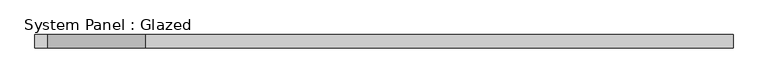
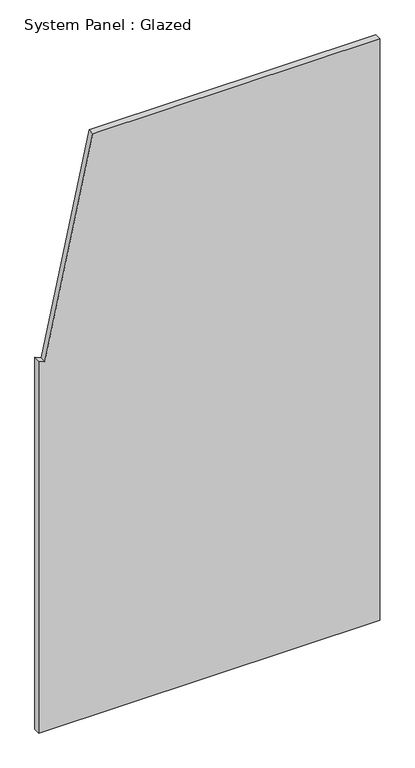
"""IFC4 building model written with IfcOpenShell, lengths in millimetres: plate geometry, System Panel : Glazed."""

from ifc_helpers import new_model, si_unit, frame, origin, place, context, project, spatial, polyline, outline, extrude, source, transform, mapped, element, save


def system_panel_glazed_9da83126(model_context):
    return source(origin(), model_context, "Body", "SweptSolid", [
        extrude(outline(polyline([(0.0, -651.6601177), (0.0, 651.6601177), (2350.0, 651.6601177), (2350.0, -444.5416156), (1493.1763221, -627.7655453), (1503.6319805, -651.6601177), (0.0, -651.6601177)])), frame((0.0, -49.5, 0.0), z_axis=(0.0, 1.0, 0.0), x_axis=(0.0, 0.0, 1.0)), (0.0, 0.0, 1.0), 25.0),
    ])


if __name__ == "__main__":
    model = new_model("IFC4")
    model_context = context("Model", 3, world=origin())
    ifc_project = project(units=[si_unit("LENGTHUNIT", "METRE", prefix="MILLI")], contexts=[model_context])
    site = spatial("IfcSite", under=ifc_project)
    building = spatial("IfcBuilding", under=site)
    placement = place(None, origin())
    system_panel_glazed_shape = system_panel_glazed_9da83126(model_context)
    element("IfcPlate", 1, ObjectType="System Panel : Glazed", at=placement, inside=building, context=model_context, shape_type="MappedRepresentation", body=[
        mapped(system_panel_glazed_shape, transform((0.0, 0.0, 0.0), x_axis=(1.0, 0.0, 0.0), y_axis=(0.0, 1.0, 0.0), z_axis=(0.0, 0.0, 1.0))),
    ])
    save(model, "model.ifc")
